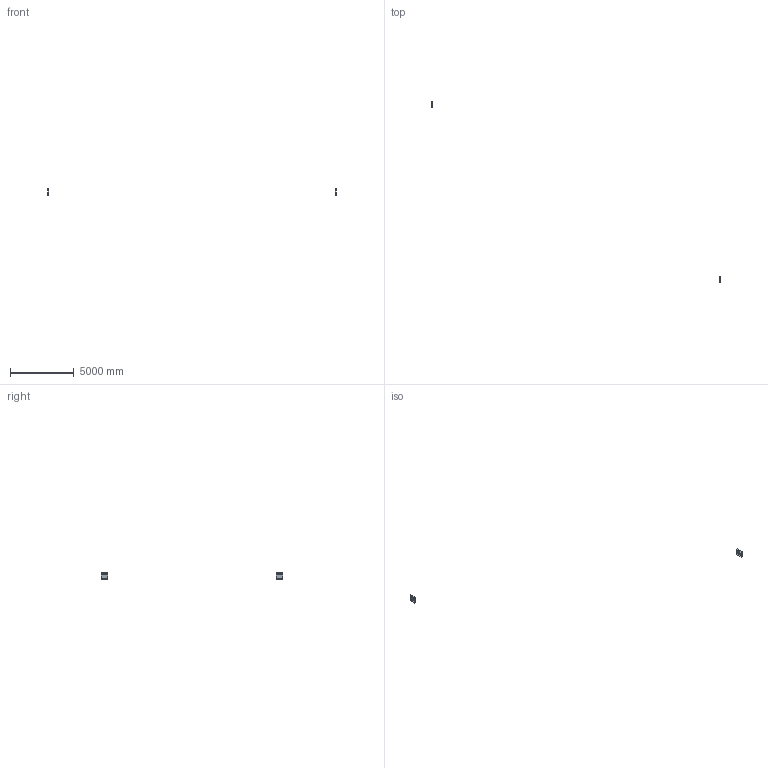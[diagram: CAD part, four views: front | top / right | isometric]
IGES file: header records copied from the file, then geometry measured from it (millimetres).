
Start section: Data from Parasolid IGES Translator 19.0.9, Copyright(c) 2006 Siemens PL M Software. All Rights Reserved.
Global section: file name: noorth-SI-H 48 D 51 W 9_8566.igs; native system: By Siemens PLM Incorporated; preprocessor: XPlus GENERIC/IGES 19.0.9; author: Noname; organization: Noname; date: 20200601.111627; units: metre
Bounding box: 22569.61 x 14185.01 x 480.8 mm (x, y, z)
Volume: 11758932.8 mm3; surface area: 1831590.8 mm2
Topology: 12 solids, 12 shells, 72 faces, 144 edges, 96 vertices
Faces by surface type: plane 72
